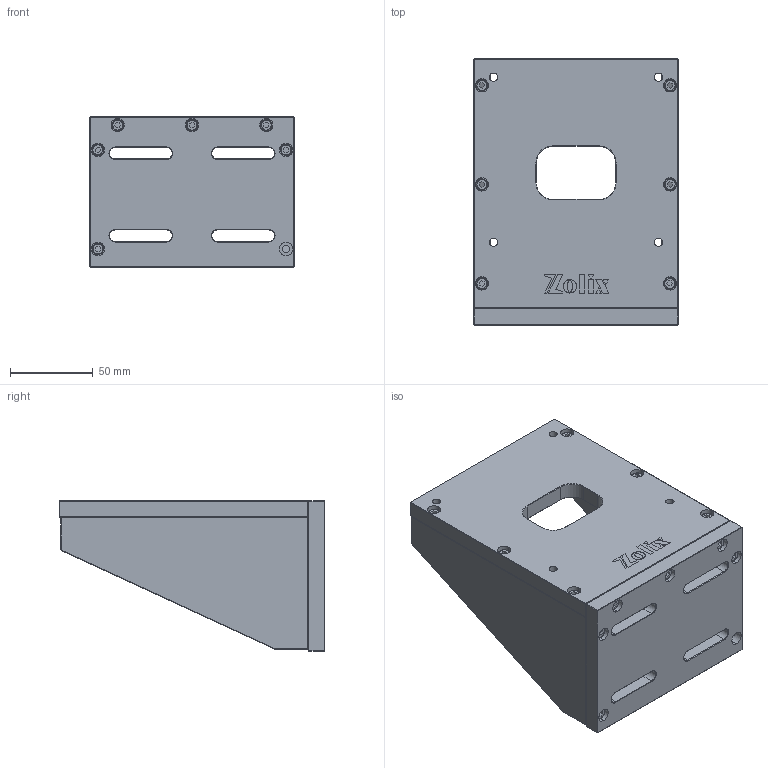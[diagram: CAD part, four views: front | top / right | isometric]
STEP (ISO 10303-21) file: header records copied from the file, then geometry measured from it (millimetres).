
FILE_DESCRIPTION (( 'STEP AP203' ), '1' );
FILE_NAME ('PHOB-11.STEP', '2024-04-01T07:13:52', ( '' ), ( '' ), 'SwSTEP 2.0', 'SolidWorks 2021', '' );
FILE_SCHEMA (( 'CONFIG_CONTROL_DESIGN' ));
Length unit declared in the file: millimetre
Products named in the file (1): PHOB-11
Bounding box: 124 x 161 x 91 mm (x, y, z)
Surface area: 105669.8 mm2 (no closed solid volume)
Topology: 0 solids, 22 shells, 278 faces, 1029 edges, 758 vertices
Faces by surface type: plane 184, cylinder 46, cone 24, torus 24
Entity records: 10855 total; most frequent: CARTESIAN_POINT 2066, DIRECTION 1801, ORIENTED_EDGE 1518, EDGE_CURVE 1029, VECTOR 815, LINE 815, VERTEX_POINT 758, AXIS2_PLACEMENT_3D 493
